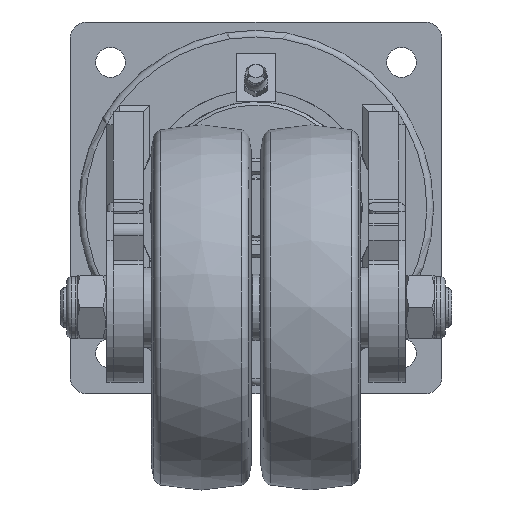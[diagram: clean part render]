
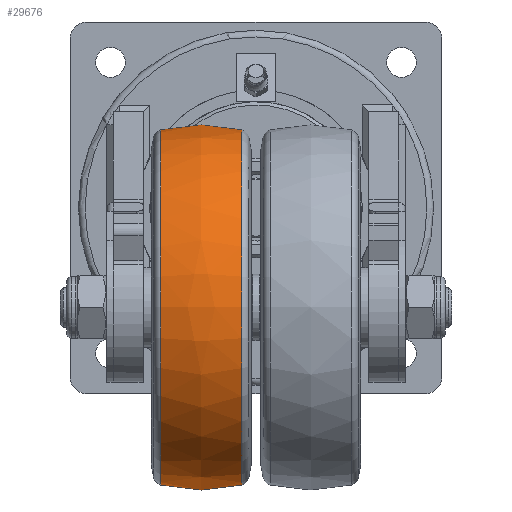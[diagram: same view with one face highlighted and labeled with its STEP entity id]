
A CAD part, left-side view. The second image highlights one B-rep face of the part: STEP entity #29676.
In plain terms, the highlighted free-form (B-spline) face has degree [2, 2] with [3, 9] control points.
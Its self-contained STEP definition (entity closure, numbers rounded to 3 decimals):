
#15=(
BOUNDED_SURFACE()
B_SPLINE_SURFACE(2,2,((#42286,#42287,#42288,#42289,#42290,#42291,#42292,
#42293,#42294),(#42295,#42296,#42297,#42298,#42299,#42300,#42301,#42302,
#42303),(#42304,#42305,#42306,#42307,#42308,#42309,#42310,#42311,#42312)),
 .UNSPECIFIED.,.F.,.T.,.F.)
B_SPLINE_SURFACE_WITH_KNOTS((3,3),(3,2,2,2,3),(-0.245,0.245),
(-3.142,-1.571,0.,1.571,3.142),
 .UNSPECIFIED.)
GEOMETRIC_REPRESENTATION_ITEM()
RATIONAL_B_SPLINE_SURFACE(((1.,0.707,1.,0.707,1.,
0.707,1.,0.707,1.),(0.97,0.686,
0.97,0.686,0.97,0.686,
0.97,0.686,0.97),(1.,0.707,
1.,0.707,1.,0.707,1.,0.707,1.)))
REPRESENTATION_ITEM('')
SURFACE()
);
#4043=FACE_OUTER_BOUND('',#5633,.T.);
#5633=EDGE_LOOP('',(#22601,#22602,#22603,#22604,#22605,#22606));
#13696=CIRCLE('',#31318,53.505);
#13697=CIRCLE('',#31319,53.505);
#13699=CIRCLE('',#31321,53.505);
#13700=CIRCLE('',#31322,53.505);
#13701=CIRCLE('',#31323,50.);
#14541=VERTEX_POINT('',#42281);
#14542=VERTEX_POINT('',#42282);
#14543=VERTEX_POINT('',#42313);
#14544=VERTEX_POINT('',#42314);
#17604=EDGE_CURVE('',#14541,#14542,#13696,.T.);
#17605=EDGE_CURVE('',#14542,#14541,#13697,.T.);
#17607=EDGE_CURVE('',#14543,#14544,#13699,.T.);
#17608=EDGE_CURVE('',#14544,#14543,#13700,.T.);
#17609=EDGE_CURVE('',#14544,#14542,#13701,.T.);
#22601=ORIENTED_EDGE('',*,*,#17607,.F.);
#22602=ORIENTED_EDGE('',*,*,#17608,.F.);
#22603=ORIENTED_EDGE('',*,*,#17609,.T.);
#22604=ORIENTED_EDGE('',*,*,#17605,.T.);
#22605=ORIENTED_EDGE('',*,*,#17604,.T.);
#22606=ORIENTED_EDGE('',*,*,#17609,.F.);
#29676=ADVANCED_FACE('',(#4043),#15,.F.);
#31318=AXIS2_PLACEMENT_3D('',#42283,#33974,#33975);
#31319=AXIS2_PLACEMENT_3D('',#42284,#33976,#33977);
#31321=AXIS2_PLACEMENT_3D('',#42315,#33980,#33981);
#31322=AXIS2_PLACEMENT_3D('',#42316,#33982,#33983);
#31323=AXIS2_PLACEMENT_3D('',#42317,#33984,#33985);
#33974=DIRECTION('center_axis',(0.,1.,0.));
#33975=DIRECTION('ref_axis',(1.,0.,0.));
#33976=DIRECTION('center_axis',(0.,1.,0.));
#33977=DIRECTION('ref_axis',(1.,0.,0.));
#33980=DIRECTION('center_axis',(0.,1.,0.));
#33981=DIRECTION('ref_axis',(1.,0.,0.));
#33982=DIRECTION('center_axis',(0.,1.,0.));
#33983=DIRECTION('ref_axis',(1.,0.,0.));
#33984=DIRECTION('center_axis',(0.,0.,
1.));
#33985=DIRECTION('ref_axis',(-1.,0.,0.));
#42281=CARTESIAN_POINT('',(-35.17,4.364,-30.));
#42282=CARTESIAN_POINT('',(-142.18,4.364,-30.));
#42283=CARTESIAN_POINT('Origin',(-88.675,4.364,-30.));
#42284=CARTESIAN_POINT('Origin',(-88.675,4.364,-30.));
#42286=CARTESIAN_POINT('Ctrl Pts',(-142.18,4.364,-30.));
#42287=CARTESIAN_POINT('Ctrl Pts',(-142.18,4.364,23.505));
#42288=CARTESIAN_POINT('Ctrl Pts',(-88.675,4.364,23.505));
#42289=CARTESIAN_POINT('Ctrl Pts',(-35.17,4.364,23.505));
#42290=CARTESIAN_POINT('Ctrl Pts',(-35.17,4.364,-30.));
#42291=CARTESIAN_POINT('Ctrl Pts',(-35.17,4.364,-83.505));
#42292=CARTESIAN_POINT('Ctrl Pts',(-88.675,4.364,-83.505));
#42293=CARTESIAN_POINT('Ctrl Pts',(-142.18,4.364,-83.505));
#42294=CARTESIAN_POINT('Ctrl Pts',(-142.18,4.364,-30.));
#42295=CARTESIAN_POINT('Ctrl Pts',(-145.216,16.5,-30.));
#42296=CARTESIAN_POINT('Ctrl Pts',(-145.216,16.5,26.541));
#42297=CARTESIAN_POINT('Ctrl Pts',(-88.675,16.5,26.541));
#42298=CARTESIAN_POINT('Ctrl Pts',(-32.134,16.5,26.541));
#42299=CARTESIAN_POINT('Ctrl Pts',(-32.134,16.5,-30.));
#42300=CARTESIAN_POINT('Ctrl Pts',(-32.134,16.5,-86.541));
#42301=CARTESIAN_POINT('Ctrl Pts',(-88.675,16.5,-86.541));
#42302=CARTESIAN_POINT('Ctrl Pts',(-145.216,16.5,-86.541));
#42303=CARTESIAN_POINT('Ctrl Pts',(-145.216,16.5,-30.));
#42304=CARTESIAN_POINT('Ctrl Pts',(-142.18,28.636,-30.));
#42305=CARTESIAN_POINT('Ctrl Pts',(-142.18,28.636,23.505));
#42306=CARTESIAN_POINT('Ctrl Pts',(-88.675,28.636,23.505));
#42307=CARTESIAN_POINT('Ctrl Pts',(-35.17,28.636,23.505));
#42308=CARTESIAN_POINT('Ctrl Pts',(-35.17,28.636,-30.));
#42309=CARTESIAN_POINT('Ctrl Pts',(-35.17,28.636,-83.505));
#42310=CARTESIAN_POINT('Ctrl Pts',(-88.675,28.636,-83.505));
#42311=CARTESIAN_POINT('Ctrl Pts',(-142.18,28.636,-83.505));
#42312=CARTESIAN_POINT('Ctrl Pts',(-142.18,28.636,-30.));
#42313=CARTESIAN_POINT('',(-35.17,28.636,-30.));
#42314=CARTESIAN_POINT('',(-142.18,28.636,-30.));
#42315=CARTESIAN_POINT('Origin',(-88.675,28.636,-30.));
#42316=CARTESIAN_POINT('Origin',(-88.675,28.636,-30.));
#42317=CARTESIAN_POINT('Origin',(-93.675,16.5,-30.));
